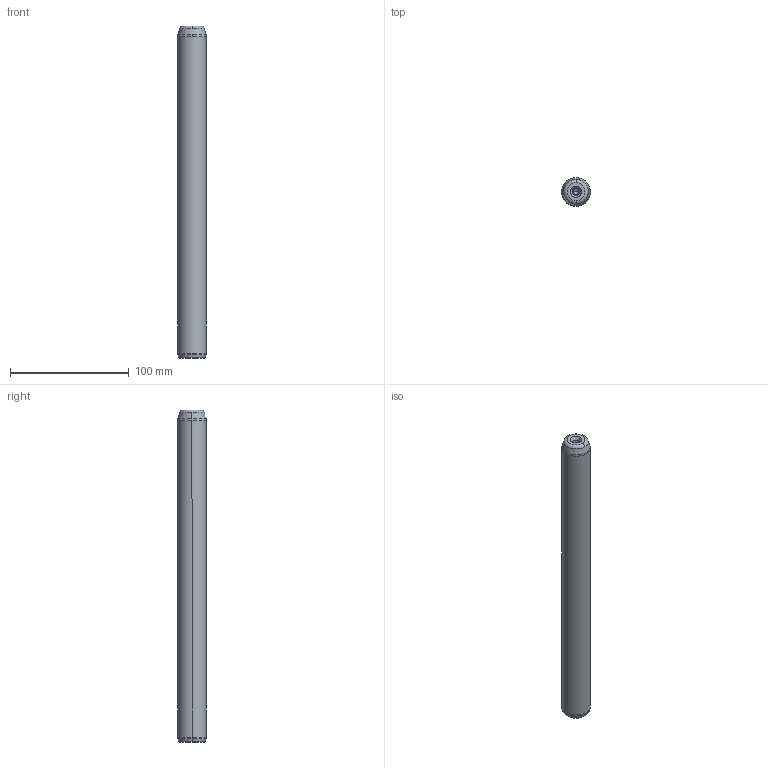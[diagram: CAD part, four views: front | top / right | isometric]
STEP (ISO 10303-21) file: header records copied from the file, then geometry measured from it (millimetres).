
FILE_DESCRIPTION((''),'2;1');
FILE_NAME('P10_024_280.stp','2008-12-23T14:36:52',(''),(''),'Mechanical Desktop 2009','Mechanical Desktop 2009',', , ');
FILE_SCHEMA(('CONFIG_CONTROL_DESIGN'));
Length unit declared in the file: millimetre
Products named in the file (5): Product; ProductAA; blmdl1; ProductA; blmdl1A
Assembly tree (2 placements, depth 3):
  Product
    ProductAA
      blmdl1
  ProductA
  blmdl1A
Bounding box: 24 x 24 x 280 mm (x, y, z)
Volume: 125335.8 mm3; surface area: 22048.3 mm2
Topology: 1 solids, 1 shells, 26 faces, 66 edges, 41 vertices
Faces by surface type: cone 10, torus 8, cylinder 6, plane 2
Entity records: 1012 total; most frequent: DIRECTION 170, CARTESIAN_POINT 134, ORIENTED_EDGE 128, AXIS2_PLACEMENT_3D 77, EDGE_CURVE 64, CIRCLE 48, VERTEX_POINT 41, EDGE_LOOP 27
